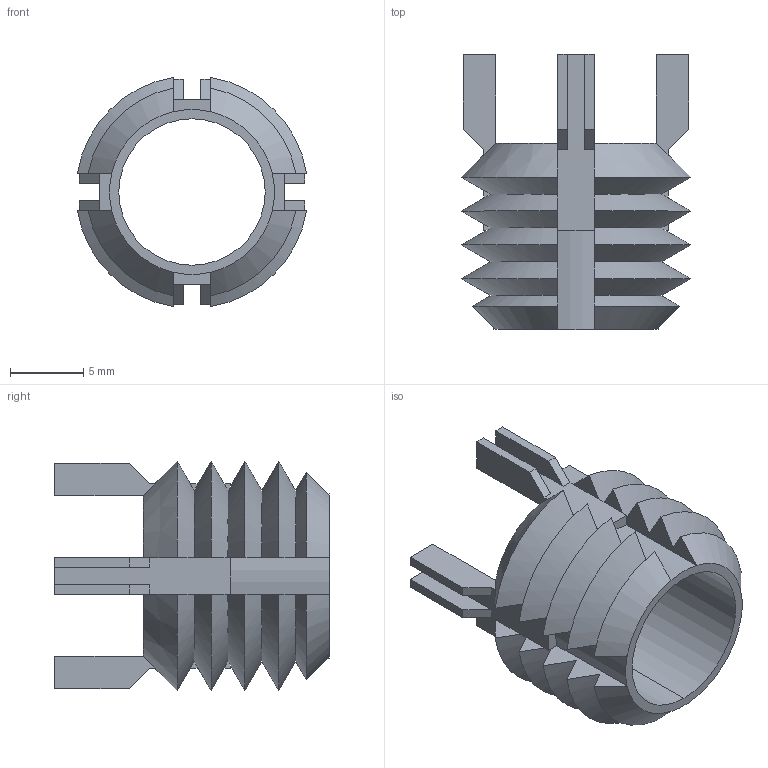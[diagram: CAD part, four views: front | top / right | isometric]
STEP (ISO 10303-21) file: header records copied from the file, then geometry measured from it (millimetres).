
FILE_DESCRIPTION (( 'STEP AP203' ), '1' );
FILE_NAME ('TR1535.66245.step', '2023-05-02T13:59:40', ( '' ), ( '' ), 'SwSTEP 2.0', 'SolidWorks 2019', '' );
FILE_SCHEMA (( 'CONFIG_CONTROL_DESIGN' ));
Length unit declared in the file: millimetre
Products named in the file (1): TR1535.66245
Bounding box: 15.68 x 18.77 x 15.68 mm (x, y, z)
Volume: 854.6 mm3; surface area: 1739.7 mm2
Topology: 1 solids, 1 shells, 136 faces, 346 edges, 212 vertices
Faces by surface type: plane 90, cone 40, cylinder 6
Entity records: 4199 total; most frequent: CARTESIAN_POINT 1055, ORIENTED_EDGE 692, DIRECTION 556, EDGE_CURVE 346, VERTEX_POINT 212, AXIS2_PLACEMENT_3D 193, VECTOR 170, LINE 170
